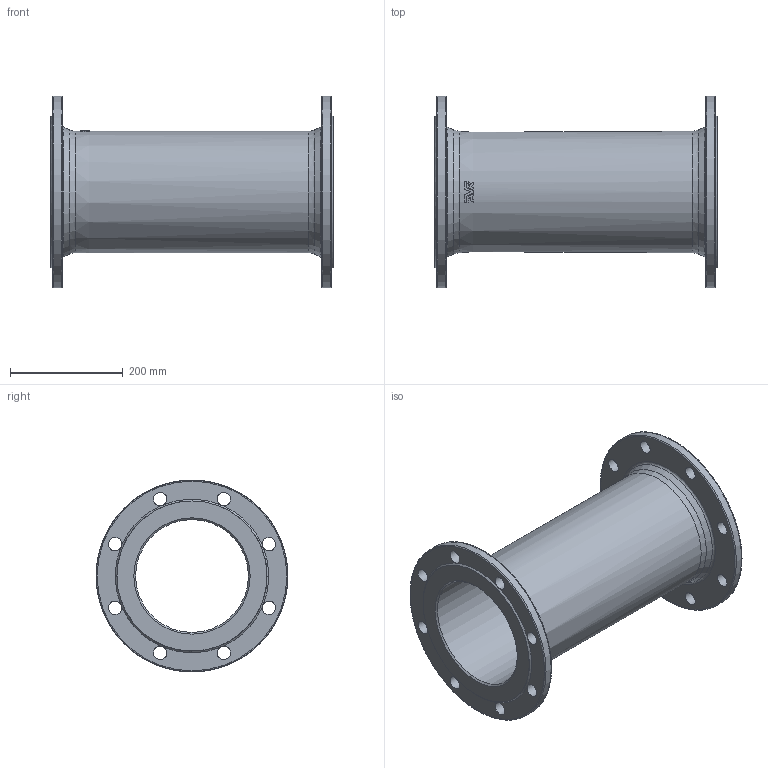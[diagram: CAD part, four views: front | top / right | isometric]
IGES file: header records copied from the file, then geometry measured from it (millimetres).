
Start section: SolidWorks IGES file using analytic representation for surfaces
Global section: file name: \\avksan2\techshare\PBM outline export from Enovia\O_712_4810_DN200_0X_REV01.igs; native system: SolidWorks 2019; preprocessor: SolidWorks 2019; author: pbm; date: 211201.113700; units: millimetre
Bounding box: 500 x 340 x 340 mm (x, y, z)
Surface area: 882047.2 mm2 (no closed solid volume)
Topology: 0 solids, 0 shells, 81 faces, 522 edges, 487 vertices
Faces by surface type: bspline 43, revolution 38
